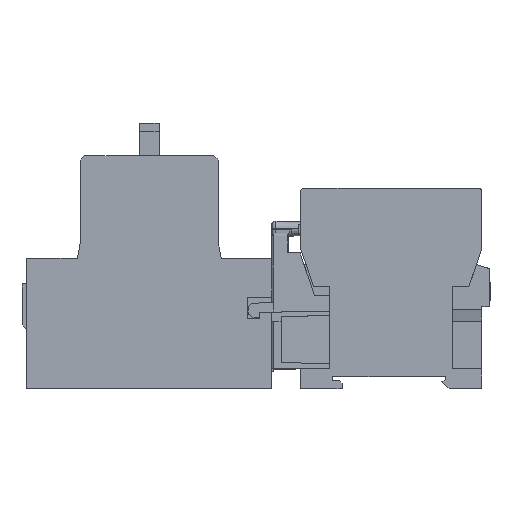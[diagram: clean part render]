
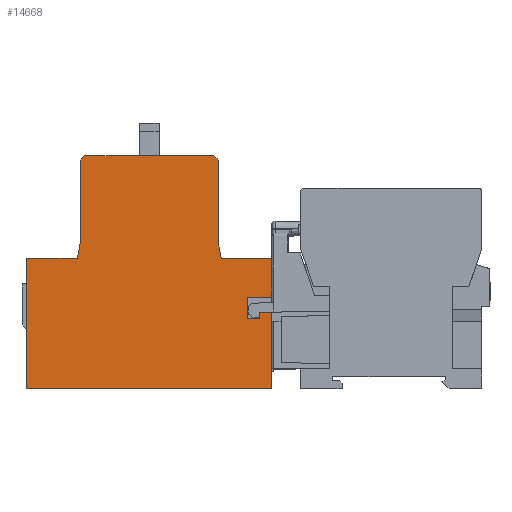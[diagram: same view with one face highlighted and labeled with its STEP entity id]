
A CAD part, top view. The second image highlights one B-rep face of the part: STEP entity #14668.
In plain terms, the highlighted planar face has unit normal (0, 0, 1).
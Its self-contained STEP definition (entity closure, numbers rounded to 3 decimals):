
#6 = VECTOR ( 'NONE', #52799, 1000. ) ;
#68 = VECTOR ( 'NONE', #27459, 1000. ) ;
#295 = LINE ( 'NONE', #11770, #32083 ) ;
#1275 = LINE ( 'NONE', #29077, #22050 ) ;
#1601 = CARTESIAN_POINT ( 'NONE',  ( 22.5, 47.5, 22.5 ) ) ;
#1689 = ORIENTED_EDGE ( 'NONE', *, *, #31595, .T. ) ;
#1825 = DIRECTION ( 'NONE',  ( -0.196, -0.981, 0. ) ) ;
#2249 = LINE ( 'NONE', #46343, #44970 ) ;
#2983 = LINE ( 'NONE', #35361, #33481 ) ;
#3739 = DIRECTION ( 'NONE',  ( 0., 0., 1. ) ) ;
#4037 = ORIENTED_EDGE ( 'NONE', *, *, #8877, .T. ) ;
#4038 = EDGE_CURVE ( 'NONE', #49736, #34547, #1275, .T. ) ;
#4258 = DIRECTION ( 'NONE',  ( 0., -1., 0. ) ) ;
#4486 = EDGE_CURVE ( 'NONE', #27489, #49736, #17481, .T. ) ;
#5544 = LINE ( 'NONE', #48457, #37322 ) ;
#5784 = VERTEX_POINT ( 'NONE', #47244 ) ;
#7516 = VERTEX_POINT ( 'NONE', #51019 ) ;
#7785 = ORIENTED_EDGE ( 'NONE', *, *, #4038, .T. ) ;
#8520 = ORIENTED_EDGE ( 'NONE', *, *, #24193, .T. ) ;
#8877 = EDGE_CURVE ( 'NONE', #41507, #36985, #32754, .T. ) ;
#8885 = DIRECTION ( 'NONE',  ( -1., 0., 0. ) ) ;
#8973 = CARTESIAN_POINT ( 'NONE',  ( -40., 0., 22.5 ) ) ;
#9428 = LINE ( 'NONE', #24981, #41162 ) ;
#9565 = EDGE_CURVE ( 'NONE', #15438, #27672, #19078, .T. ) ;
#9766 = CARTESIAN_POINT ( 'NONE',  ( 40., 42.5, 22.5 ) ) ;
#10401 = LINE ( 'NONE', #9766, #31151 ) ;
#10592 = CARTESIAN_POINT ( 'NONE',  ( -22.5, 47.5, 22.5 ) ) ;
#11089 = CARTESIAN_POINT ( 'NONE',  ( 40., 24.8, 22.5 ) ) ;
#11093 = LINE ( 'NONE', #19129, #68 ) ;
#11479 = ORIENTED_EDGE ( 'NONE', *, *, #29127, .T. ) ;
#11770 = CARTESIAN_POINT ( 'NONE',  ( 40., 0., 22.5 ) ) ;
#12669 = ORIENTED_EDGE ( 'NONE', *, *, #9565, .F. ) ;
#13516 = DIRECTION ( 'NONE',  ( 1., 0., 0. ) ) ;
#14668 = ADVANCED_FACE ( 'NONE', ( #26697 ), #44967, .T. ) ;
#15438 = VERTEX_POINT ( 'NONE', #40677 ) ;
#16117 = DIRECTION ( 'NONE',  ( 0., 1., 0. ) ) ;
#17068 = DIRECTION ( 'NONE',  ( -0.707, 0.707, 0. ) ) ;
#17195 = EDGE_CURVE ( 'NONE', #22977, #27489, #46562, .T. ) ;
#17481 = LINE ( 'NONE', #42567, #49161 ) ;
#17635 = DIRECTION ( 'NONE',  ( -1., 0., 0. ) ) ;
#17758 = VECTOR ( 'NONE', #8885, 1000. ) ;
#18108 = LINE ( 'NONE', #44539, #27848 ) ;
#18289 = ORIENTED_EDGE ( 'NONE', *, *, #53233, .T. ) ;
#18863 = ORIENTED_EDGE ( 'NONE', *, *, #39135, .T. ) ;
#19078 = LINE ( 'NONE', #29541, #17758 ) ;
#19129 = CARTESIAN_POINT ( 'NONE',  ( -48.5, 48.5, 22.5 ) ) ;
#19232 = LINE ( 'NONE', #52339, #48289 ) ;
#20467 = EDGE_CURVE ( 'NONE', #42125, #33381, #5544, .T. ) ;
#22050 = VECTOR ( 'NONE', #4258, 1000. ) ;
#22372 = CARTESIAN_POINT ( 'NONE',  ( 40., 0., 22.5 ) ) ;
#22977 = VERTEX_POINT ( 'NONE', #10592 ) ;
#23036 = EDGE_CURVE ( 'NONE', #43656, #5784, #11093, .T. ) ;
#23088 = LINE ( 'NONE', #1601, #42459 ) ;
#23472 = VERTEX_POINT ( 'NONE', #47936 ) ;
#23728 = DIRECTION ( 'NONE',  ( 1., 0., 0. ) ) ;
#24193 = EDGE_CURVE ( 'NONE', #34547, #41507, #38164, .T. ) ;
#24981 = CARTESIAN_POINT ( 'NONE',  ( 22.5, 76., 22.5 ) ) ;
#25828 = CARTESIAN_POINT ( 'NONE',  ( 21., 76., 22.5 ) ) ;
#26697 = FACE_OUTER_BOUND ( 'NONE', #51883, .T. ) ;
#27225 = VECTOR ( 'NONE', #13516, 1000. ) ;
#27320 = CARTESIAN_POINT ( 'NONE',  ( 36., 22.8, 22.5 ) ) ;
#27459 = DIRECTION ( 'NONE',  ( -0.707, -0.707, 0. ) ) ;
#27489 = VERTEX_POINT ( 'NONE', #53198 ) ;
#27672 = VERTEX_POINT ( 'NONE', #50434 ) ;
#27848 = VECTOR ( 'NONE', #48709, 1000. ) ;
#27940 = ORIENTED_EDGE ( 'NONE', *, *, #23036, .T. ) ;
#27989 = ORIENTED_EDGE ( 'NONE', *, *, #4486, .T. ) ;
#28896 = CARTESIAN_POINT ( 'NONE',  ( 22.5, 47.5, 22.5 ) ) ;
#29077 = CARTESIAN_POINT ( 'NONE',  ( -40., 42.5, 22.5 ) ) ;
#29127 = EDGE_CURVE ( 'NONE', #15438, #23472, #295, .T. ) ;
#29138 = DIRECTION ( 'NONE',  ( -1., 0., 0. ) ) ;
#29541 = CARTESIAN_POINT ( 'NONE',  ( 40., 29.8, 22.5 ) ) ;
#30679 = AXIS2_PLACEMENT_3D ( 'NONE', #32579, #3739, #32761 ) ;
#31151 = VECTOR ( 'NONE', #34620, 1000. ) ;
#31334 = EDGE_CURVE ( 'NONE', #23472, #38063, #10401, .T. ) ;
#31595 = EDGE_CURVE ( 'NONE', #38063, #42597, #44012, .T. ) ;
#31733 = CARTESIAN_POINT ( 'NONE',  ( 23.5, 42.5, 22.5 ) ) ;
#32083 = VECTOR ( 'NONE', #16117, 1000. ) ;
#32407 = EDGE_CURVE ( 'NONE', #5784, #22977, #18108, .T. ) ;
#32579 = CARTESIAN_POINT ( 'NONE',  ( 0., 0., 22.5 ) ) ;
#32659 = CARTESIAN_POINT ( 'NONE',  ( 22.5, 74.5, 22.5 ) ) ;
#32754 = LINE ( 'NONE', #41077, #42389 ) ;
#32761 = DIRECTION ( 'NONE',  ( 1., 0., 0. ) ) ;
#33381 = VERTEX_POINT ( 'NONE', #27320 ) ;
#33481 = VECTOR ( 'NONE', #35172, 1000. ) ;
#34121 = DIRECTION ( 'NONE',  ( 1., 0., 0. ) ) ;
#34547 = VERTEX_POINT ( 'NONE', #8973 ) ;
#34620 = DIRECTION ( 'NONE',  ( -1., 0., 0. ) ) ;
#34790 = DIRECTION ( 'NONE',  ( 0., 1., 0. ) ) ;
#35133 = VECTOR ( 'NONE', #17068, 1000. ) ;
#35172 = DIRECTION ( 'NONE',  ( 0., 1., 0. ) ) ;
#35361 = CARTESIAN_POINT ( 'NONE',  ( 36., 22.8, 22.5 ) ) ;
#35654 = VECTOR ( 'NONE', #1825, 1000. ) ;
#35786 = VERTEX_POINT ( 'NONE', #32659 ) ;
#36181 = ORIENTED_EDGE ( 'NONE', *, *, #20467, .F. ) ;
#36327 = EDGE_CURVE ( 'NONE', #42190, #43656, #9428, .T. ) ;
#36398 = ORIENTED_EDGE ( 'NONE', *, *, #41651, .F. ) ;
#36877 = EDGE_CURVE ( 'NONE', #7516, #36985, #2249, .T. ) ;
#36985 = VERTEX_POINT ( 'NONE', #11089 ) ;
#37322 = VECTOR ( 'NONE', #23728, 1000. ) ;
#37554 = ORIENTED_EDGE ( 'NONE', *, *, #32407, .T. ) ;
#37682 = CARTESIAN_POINT ( 'NONE',  ( 48.5, 48.5, 22.5 ) ) ;
#38063 = VERTEX_POINT ( 'NONE', #31733 ) ;
#38164 = LINE ( 'NONE', #42447, #27225 ) ;
#39126 = CARTESIAN_POINT ( 'NONE',  ( -22.5, 47.5, 22.5 ) ) ;
#39135 = EDGE_CURVE ( 'NONE', #35786, #42190, #48658, .T. ) ;
#40541 = CARTESIAN_POINT ( 'NONE',  ( 22.5, 47.5, 22.5 ) ) ;
#40677 = CARTESIAN_POINT ( 'NONE',  ( 40., 29.8, 22.5 ) ) ;
#41077 = CARTESIAN_POINT ( 'NONE',  ( 40., 0., 22.5 ) ) ;
#41162 = VECTOR ( 'NONE', #29138, 1000. ) ;
#41459 = ORIENTED_EDGE ( 'NONE', *, *, #52898, .F. ) ;
#41507 = VERTEX_POINT ( 'NONE', #22372 ) ;
#41651 = EDGE_CURVE ( 'NONE', #27672, #42125, #19232, .T. ) ;
#42125 = VERTEX_POINT ( 'NONE', #50195 ) ;
#42190 = VERTEX_POINT ( 'NONE', #25828 ) ;
#42378 = ORIENTED_EDGE ( 'NONE', *, *, #17195, .T. ) ;
#42389 = VECTOR ( 'NONE', #49361, 1000. ) ;
#42447 = CARTESIAN_POINT ( 'NONE',  ( -40., 0., 22.5 ) ) ;
#42459 = VECTOR ( 'NONE', #34790, 1000. ) ;
#42567 = CARTESIAN_POINT ( 'NONE',  ( -23.5, 42.5, 22.5 ) ) ;
#42597 = VERTEX_POINT ( 'NONE', #28896 ) ;
#43656 = VERTEX_POINT ( 'NONE', #53316 ) ;
#43874 = ORIENTED_EDGE ( 'NONE', *, *, #36327, .T. ) ;
#44012 = LINE ( 'NONE', #40541, #6 ) ;
#44335 = ORIENTED_EDGE ( 'NONE', *, *, #36877, .F. ) ;
#44539 = CARTESIAN_POINT ( 'NONE',  ( -22.5, 76., 22.5 ) ) ;
#44967 = PLANE ( 'NONE',  #30679 ) ;
#44970 = VECTOR ( 'NONE', #34121, 1000. ) ;
#45472 = ORIENTED_EDGE ( 'NONE', *, *, #31334, .T. ) ;
#46343 = CARTESIAN_POINT ( 'NONE',  ( 36., 24.8, 22.5 ) ) ;
#46562 = LINE ( 'NONE', #39126, #35654 ) ;
#47217 = CARTESIAN_POINT ( 'NONE',  ( -40., 42.5, 22.5 ) ) ;
#47244 = CARTESIAN_POINT ( 'NONE',  ( -22.5, 74.5, 22.5 ) ) ;
#47936 = CARTESIAN_POINT ( 'NONE',  ( 40., 42.5, 22.5 ) ) ;
#48289 = VECTOR ( 'NONE', #48358, 1000. ) ;
#48358 = DIRECTION ( 'NONE',  ( 0., -1., 0. ) ) ;
#48457 = CARTESIAN_POINT ( 'NONE',  ( 32., 22.8, 22.5 ) ) ;
#48658 = LINE ( 'NONE', #37682, #35133 ) ;
#48709 = DIRECTION ( 'NONE',  ( 0., -1., 0. ) ) ;
#49161 = VECTOR ( 'NONE', #17635, 1000. ) ;
#49361 = DIRECTION ( 'NONE',  ( 0., 1., 0. ) ) ;
#49736 = VERTEX_POINT ( 'NONE', #47217 ) ;
#50195 = CARTESIAN_POINT ( 'NONE',  ( 32., 22.8, 22.5 ) ) ;
#50434 = CARTESIAN_POINT ( 'NONE',  ( 32., 29.8, 22.5 ) ) ;
#51019 = CARTESIAN_POINT ( 'NONE',  ( 36., 24.8, 22.5 ) ) ;
#51883 = EDGE_LOOP ( 'NONE', ( #44335, #41459, #36181, #36398, #12669, #11479, #45472, #1689, #18289, #18863, #43874, #27940, #37554, #42378, #27989, #7785, #8520, #4037 ) ) ;
#52339 = CARTESIAN_POINT ( 'NONE',  ( 32., 29.8, 22.5 ) ) ;
#52799 = DIRECTION ( 'NONE',  ( -0.196, 0.981, 0. ) ) ;
#52898 = EDGE_CURVE ( 'NONE', #33381, #7516, #2983, .T. ) ;
#53198 = CARTESIAN_POINT ( 'NONE',  ( -23.5, 42.5, 22.5 ) ) ;
#53233 = EDGE_CURVE ( 'NONE', #42597, #35786, #23088, .T. ) ;
#53316 = CARTESIAN_POINT ( 'NONE',  ( -21., 76., 22.5 ) ) ;
